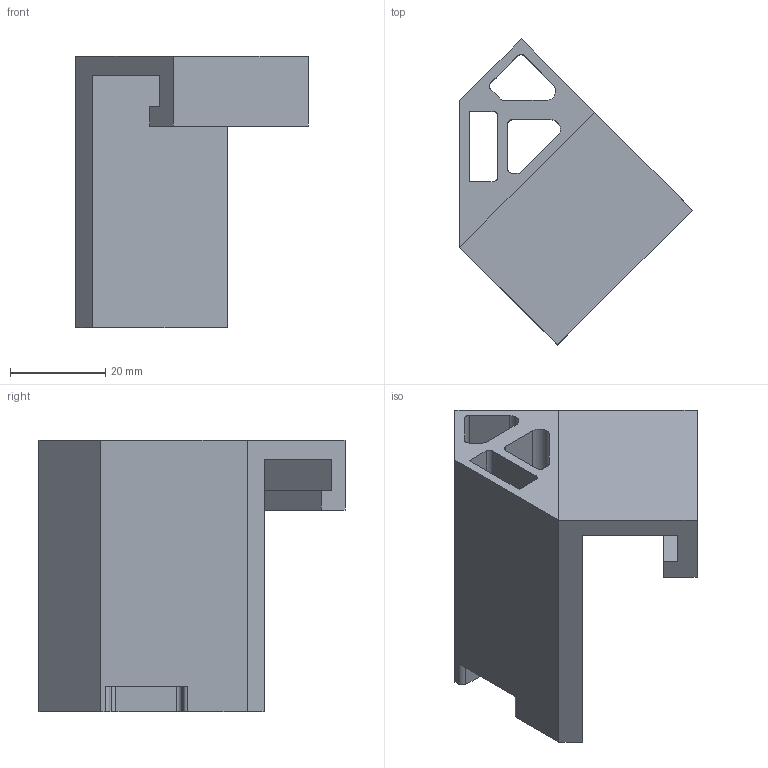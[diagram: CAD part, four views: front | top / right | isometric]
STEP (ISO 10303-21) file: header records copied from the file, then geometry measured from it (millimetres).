
FILE_DESCRIPTION(/* description */ ('STEP AP242','CAx-IF Rec.Pracs.---Representation and Presentation of Product Manufacturing Information (PMI)---4.0---2014-10-13','CAx-IF Rec.Pracs.---3D Tessellated Geometry---0.4---2014-09-14','2;1'),/* implementation_level */ '2;1');
FILE_NAME(/* name */ '6536b32f03050d6769cf2bee',/* time_stamp */ '2023-10-23T17:53:52Z',/* author */ (''),/* organization */ (''),/* preprocessor_version */ 'ST-DEVELOPER v19.4',/* originating_system */ ' ',/* authorisation */ ' ');
FILE_SCHEMA (('AP242_MANAGED_MODEL_BASED_3D_ENGINEERING_MIM_LF { 1 0 10303 442 1 1 4 }'));
Length unit declared in the file: metre
Products named in the file (2): Side Clip; 45 Deg Base
Bounding box: 48.79 x 64.18 x 57 mm (x, y, z)
Volume: 38364.5 mm3; surface area: 22336.9 mm2
Topology: 2 solids, 2 shells, 46 faces, 127 edges, 84 vertices
Faces by surface type: plane 33, cylinder 13
Entity records: 1521 total; most frequent: CARTESIAN_POINT 259, ORIENTED_EDGE 254, DIRECTION 249, EDGE_CURVE 127, LINE 101, VECTOR 101, VERTEX_POINT 84, AXIS2_PLACEMENT_3D 74
